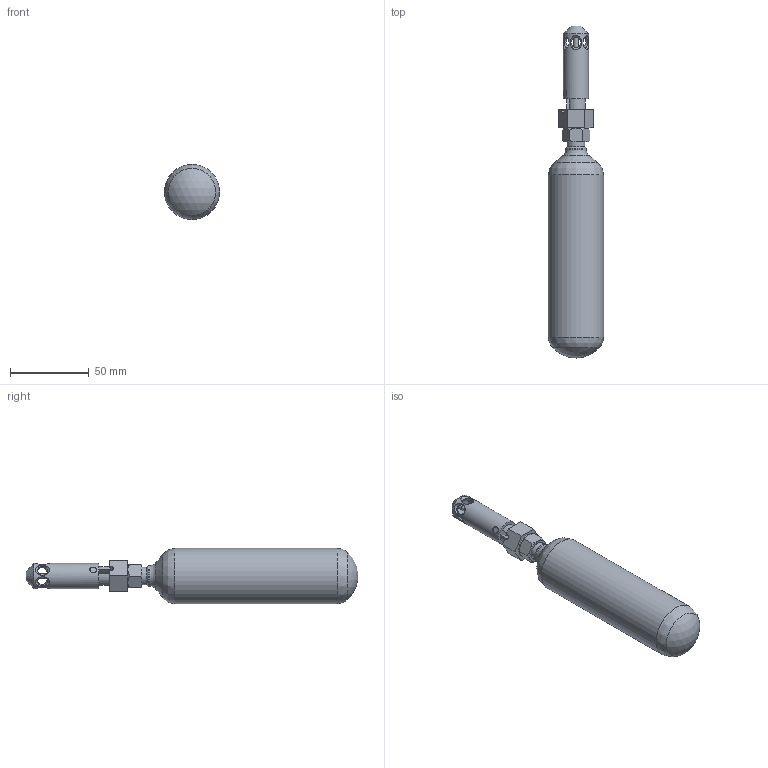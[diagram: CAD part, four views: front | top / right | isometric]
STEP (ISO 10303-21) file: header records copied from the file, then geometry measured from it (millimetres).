
FILE_DESCRIPTION(/* description */ (''),/* implementation_level */ '2;1');
FILE_NAME(/* name */ '40-056-20-68182-01 - AMFE - cylinder size 1.stp',/* time_stamp */ '2025-03-26T16:29:41+01:00',/* author */ ('ASc'),/* organization */ (''),/* preprocessor_version */ 'ST-DEVELOPER v19.2',/* originating_system */ 'Autodesk Inventor 2023',/* authorisation */ '');
FILE_SCHEMA (('AUTOMOTIVE_DESIGN { 1 0 10303 214 3 1 1 }'));
Length unit declared in the file: millimetre
Products named in the file (1): 40-056-20-68182-01_Vereinfachen_1
Bounding box: 35 x 210.25 x 35 mm (x, y, z)
Volume: 129400.1 mm3; surface area: 20171.2 mm2
Topology: 1 solids, 1 shells, 79 faces, 242 edges, 161 vertices
Faces by surface type: plane 29, cone 25, cylinder 18, sphere 3, torus 2, bspline 2
Full cylindrical faces by diameter (mm): 2.9 x1, 3 x1, 6.5 x6, 11 x1, 12 x1, 12.5 x1, 13 x1, 15 x1, 16 x1, 35 x1
Entity records: 3396 total; most frequent: CARTESIAN_POINT 1102, ORIENTED_EDGE 478, DIRECTION 422, EDGE_CURVE 239, AXIS2_PLACEMENT_3D 168, VERTEX_POINT 161, EDGE_LOOP 96, LINE 86
